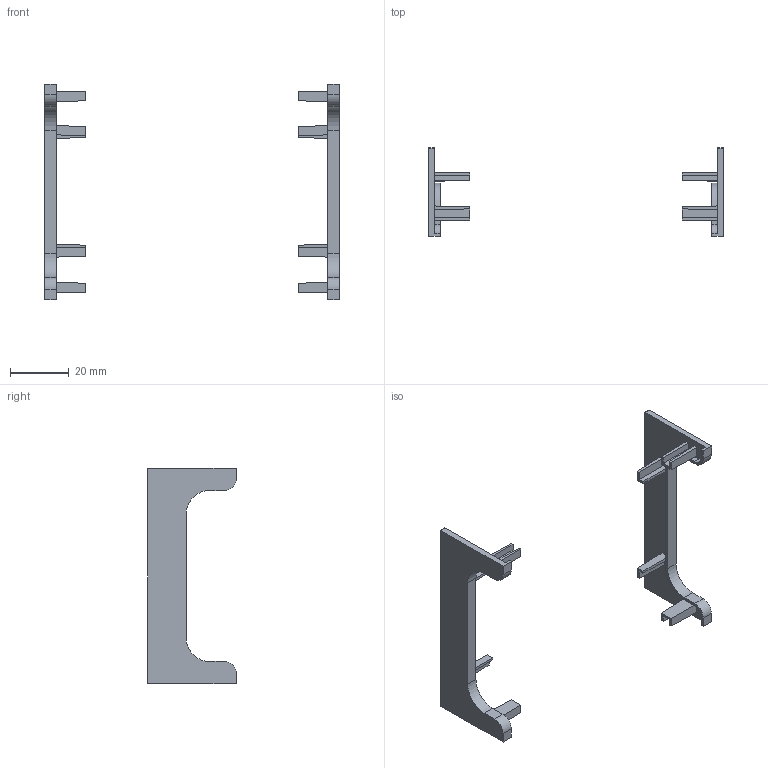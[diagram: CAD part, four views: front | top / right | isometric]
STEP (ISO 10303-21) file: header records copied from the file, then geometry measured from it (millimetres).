
FILE_DESCRIPTION( ( '' ), '1' );
FILE_NAME( 'C:/Documents and Settings/Sachin/Desktop/Sheet 10_1/stp/9118978.stp', '2013-10-22T06:07:22', ( '' ), ( '' ), ' ', ' ', ' ' );
FILE_SCHEMA( ( 'CONFIG_CONTROL_DESIGN' ) );
Length unit declared in the file: millimetre
Products named in the file (2): 1; 2
Bounding box: 100 x 30 x 73 mm (x, y, z)
Volume: 6013.1 mm3; surface area: 8226.5 mm2
Topology: 2 solids, 2 shells, 116 faces, 312 edges, 208 vertices
Faces by surface type: plane 96, cylinder 20
Entity records: 3684 total; most frequent: CARTESIAN_POINT 638, ORIENTED_EDGE 624, DIRECTION 588, EDGE_CURVE 312, LINE 272, VECTOR 272, VERTEX_POINT 208, AXIS2_PLACEMENT_3D 158
